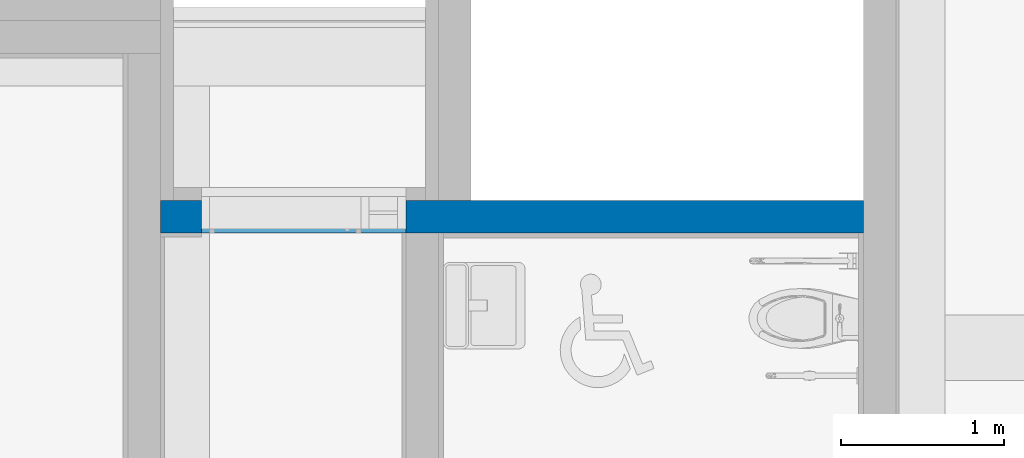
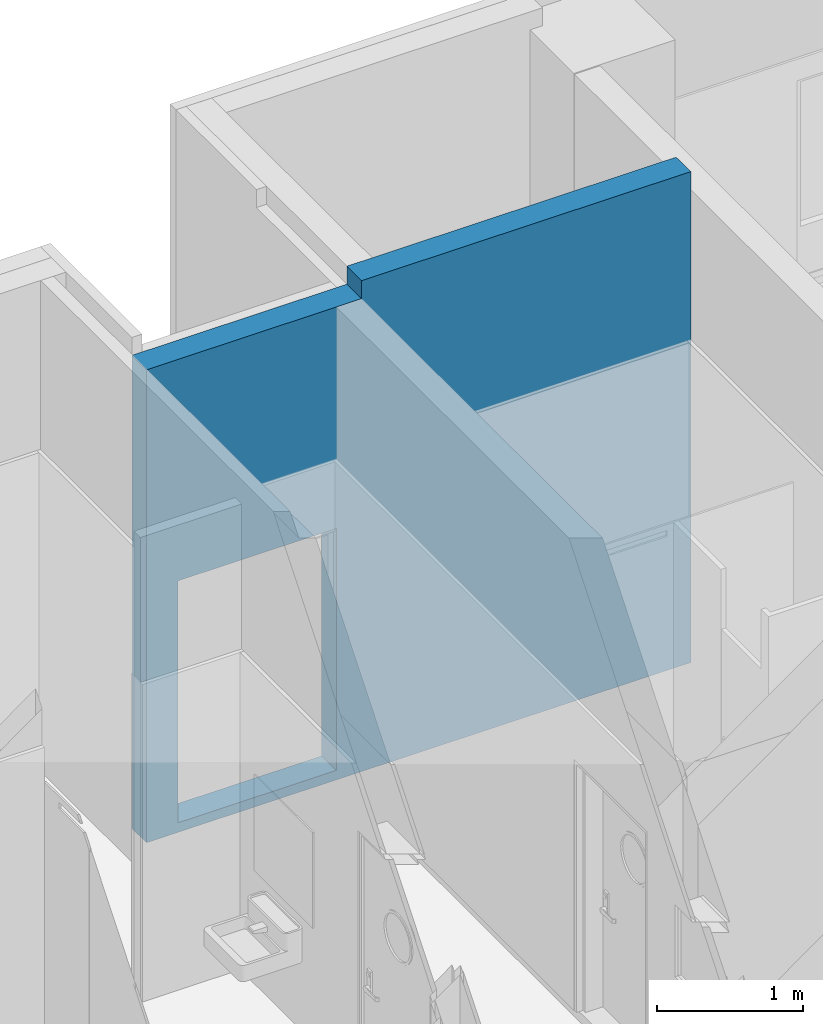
# One storey, part 63 of 81: 1 wall, 2 openings.
"""IFC2X3 building model written with IfcOpenShell, lengths in millimetres."""

from ifc_helpers import new_model, entity, si_unit, converted_unit, derived_unit, direction, frame, frame_2d, origin, place, context, subcontext, project, spatial, polyline, rectangle, outline, extrude, clip, bounded_halfspace, material, layer, layer_set, layer_usage, type_object, element, save


model = new_model("IFC2X3")

# Units and contexts
model_context = context("Model", 3, precision=0.01, world=origin(), true_north=direction((6.123031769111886e-17, 1.0)))
body_context = subcontext(model_context, "Body", "Model", "MODEL_VIEW")
ifc_project = project(units=[si_unit("LENGTHUNIT", "METRE", prefix="MILLI"), si_unit("AREAUNIT", "SQUARE_METRE"), si_unit("VOLUMEUNIT", "CUBIC_METRE"), converted_unit("PLANEANGLEUNIT", "DEGREE", entity("IfcRatioMeasure", 0.017453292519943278), si_unit("PLANEANGLEUNIT", "RADIAN"), dimensions=[0, 0, 0, 0, 0, 0, 0]), si_unit("MASSUNIT", "GRAM", prefix="KILO"), derived_unit("MASSDENSITYUNIT", [(si_unit("MASSUNIT", "GRAM", prefix="KILO"), 1), (si_unit("LENGTHUNIT", "METRE"), -3)]), derived_unit("MOMENTOFINERTIAUNIT", [(si_unit("LENGTHUNIT", "METRE"), 4)]), si_unit("TIMEUNIT", "SECOND"), si_unit("FREQUENCYUNIT", "HERTZ"), si_unit("THERMODYNAMICTEMPERATUREUNIT", "DEGREE_CELSIUS"), derived_unit("THERMALTRANSMITTANCEUNIT", [(si_unit("MASSUNIT", "GRAM", prefix="KILO"), 1), (si_unit("THERMODYNAMICTEMPERATUREUNIT", "KELVIN"), -1), (si_unit("TIMEUNIT", "SECOND"), -3)]), derived_unit("VOLUMETRICFLOWRATEUNIT", [(si_unit("LENGTHUNIT", "METRE"), 3), (si_unit("TIMEUNIT", "SECOND"), -1)]), derived_unit("MASSFLOWRATEUNIT", [(si_unit("MASSUNIT", "GRAM", prefix="KILO"), 1), (si_unit("TIMEUNIT", "SECOND"), -1)]), derived_unit("ROTATIONALFREQUENCYUNIT", [(si_unit("TIMEUNIT", "SECOND"), -1)]), si_unit("ELECTRICCURRENTUNIT", "AMPERE"), si_unit("ELECTRICVOLTAGEUNIT", "VOLT"), si_unit("POWERUNIT", "WATT"), si_unit("FORCEUNIT", "NEWTON", prefix="KILO"), si_unit("ILLUMINANCEUNIT", "LUX"), si_unit("LUMINOUSFLUXUNIT", "LUMEN"), si_unit("LUMINOUSINTENSITYUNIT", "CANDELA"), derived_unit("USERDEFINED", [(si_unit("MASSUNIT", "GRAM", prefix="KILO"), -1), (si_unit("LENGTHUNIT", "METRE"), -2), (si_unit("TIMEUNIT", "SECOND"), 3), (si_unit("LUMINOUSFLUXUNIT", "LUMEN"), 1)]), derived_unit("SOUNDPOWERUNIT", [(si_unit("MASSUNIT", "GRAM", prefix="KILO"), 1), (si_unit("LENGTHUNIT", "METRE"), 2), (si_unit("TIMEUNIT", "SECOND"), -3)]), derived_unit("SOUNDPRESSUREUNIT", [(si_unit("MASSUNIT", "GRAM", prefix="KILO"), 1), (si_unit("LENGTHUNIT", "METRE"), -1), (si_unit("TIMEUNIT", "SECOND"), -2)]), derived_unit("LINEARVELOCITYUNIT", [(si_unit("LENGTHUNIT", "METRE"), 1), (si_unit("TIMEUNIT", "SECOND"), -1)]), si_unit("PRESSUREUNIT", "PASCAL"), derived_unit("USERDEFINED", [(si_unit("LENGTHUNIT", "METRE"), -2), (si_unit("MASSUNIT", "GRAM", prefix="KILO"), 1), (si_unit("TIMEUNIT", "SECOND"), -2)]), derived_unit("LINEARFORCEUNIT", [(si_unit("MASSUNIT", "GRAM", prefix="KILO"), 1), (si_unit("LENGTHUNIT", "METRE"), 1), (si_unit("TIMEUNIT", "SECOND"), -2), (si_unit("LENGTHUNIT", "METRE"), -1)]), derived_unit("PLANARFORCEUNIT", [(si_unit("MASSUNIT", "GRAM", prefix="KILO"), 1), (si_unit("LENGTHUNIT", "METRE"), 1), (si_unit("TIMEUNIT", "SECOND"), -2), (si_unit("LENGTHUNIT", "METRE"), -2)])], contexts=[model_context])

# Site, building, storey
site_placement = place(None, frame((-14167.972527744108, -657.2125860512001, 0.0)))
site = spatial("IfcSite", under=ifc_project, at=site_placement, Name="Default", CompositionType="ELEMENT")
building_placement = place(site_placement, origin())
building = spatial("IfcBuilding", under=site, at=building_placement, Name="Sample Building", CompositionType="ELEMENT")
storey_placement = place(building_placement, frame((0.0, 0.0, 13400.0)))
storey = spatial("IfcBuildingStorey", under=building, at=storey_placement, Name="지상 4층", CompositionType="ELEMENT", Elevation=13400.00000000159)

# Wall, openings
ifc_material = material(Name="KBIMS-콘크리트")
ifc_layer = layer(ifc_material, 200.0)
ifc_layer_set = layer_set([ifc_layer], Name="기본 벽:WA111-철근콘크리트구조 벽 200mm_CW1")
ifc_layer_usage = layer_usage(ifc_layer_set, "AXIS2", "NEGATIVE", 100.0)
wall_type = type_object("IfcWallType", Name="기본 벽:WA111-철근콘크리트구조 벽 200mm_CW1", PredefinedType="STANDARD", material=ifc_layer_set)
wall_placement = place(storey_placement, frame((36467.963798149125, 26957.21229514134, -2.3000097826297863e-09)))
wall = element("IfcWallStandardCase", 1, at=wall_placement, inside=storey, type_object=wall_type, material=ifc_layer_usage, Name="기본 벽:WA111-철근콘크리트구조 벽 200mm_CW1", ObjectType="기본 벽:WA111-철근콘크리트구조 벽 200mm_CW1", context=body_context, shape_type="Clipping", body=[
    clip(clip(extrude(rectangle(XDim=4300.000000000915, YDim=199.99999999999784, at=frame_2d((2150.0000000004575, 0.0), x_axis=(-1.0, 0.0))), origin(), (0.0, 0.0, 1.0), 4100.000000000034), bounded_halfspace(frame((1699.9912638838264, -100.0, 3950.0), z_axis=(0.0, 0.0, -1.0), x_axis=(1.0, 0.0, 0.0)), True, frame((1699.9912638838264, -100.0, 3950.0), z_axis=(0.0, 0.0, -1.0), x_axis=(1.0, 0.0, 0.0)), polyline([(0.0, 0.0), (-60957.33723164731, 0.0), (-426717.30176581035, 0.0), (-518157.3372317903, 0.0), (-518157.3372317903, -60960.0), (-426717.30176581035, -60960.0), (0.0, -60960.0), (0.0, 0.0)]))), bounded_halfspace(frame((1699.9912638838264, 100.0, 3950.0), z_axis=(1.0, 0.0, 0.0), x_axis=(0.0, 0.0, 1.0)), True, frame((1699.9912638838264, 100.0, 3950.0), z_axis=(1.0, 0.0, 0.0), x_axis=(0.0, 0.0, 1.0)), polyline([(0.0, 0.0), (45720.0, 0.0), (45720.0, 60960.0), (0.0, 60960.0), (0.0, 0.0)]))),
])
opening_1_placement = place(wall_placement, origin())
element("IfcOpeningElement", 2, at=opening_1_placement, cuts=wall, Name="기본 벽:WA111-철근콘크리트구조 벽 200mm_CW1", ObjectType="Opening", context=body_context, shape_type="SweptSolid", body=[
    extrude(outline(polyline([(-1022.5000000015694, -681.2500000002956), (997.5000000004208, -681.2500000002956), (997.5000000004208, -406.249999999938), (-972.4999999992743, -406.249999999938), (-972.4999999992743, 518.750000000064), (997.5000000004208, 518.7500000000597), (997.5000000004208, 568.7500000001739), (-1022.5000000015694, 568.7500000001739), (-1022.5000000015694, -681.2500000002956)])), frame((818.7500000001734, -252.39999999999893, 1077.50000000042), z_axis=(0.0, 1.0, 0.0), x_axis=(0.0, 0.0, -1.0)), (0.0, 0.0, 1.0), 504.79999999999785),
])
opening_2_placement = place(wall_placement, frame((1225.0, 100.0, 80.0)))
element("IfcOpeningElement", 3, at=opening_2_placement, cuts=wall, Name="DR111-외여닫이문(철재, 일반, 양개):DR111-외여닫이문(유리, 일반, 양개) 925x1970mm 2:1", ObjectType="Opening", context=body_context, shape_type="SweptSolid", body=[
    extrude(rectangle(XDim=1969.9999999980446, YDim=924.9999999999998, at=frame_2d((984.9999999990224, 462.4999999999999), x_axis=(1.0, 0.0))), frame((0.0, 0.0, 0.0), z_axis=(0.0, -1.0, 0.0), x_axis=(0.0, 0.0, 1.0)), (0.0, 0.0, 1.0), 200.0),
])

save(model, "model.ifc")
